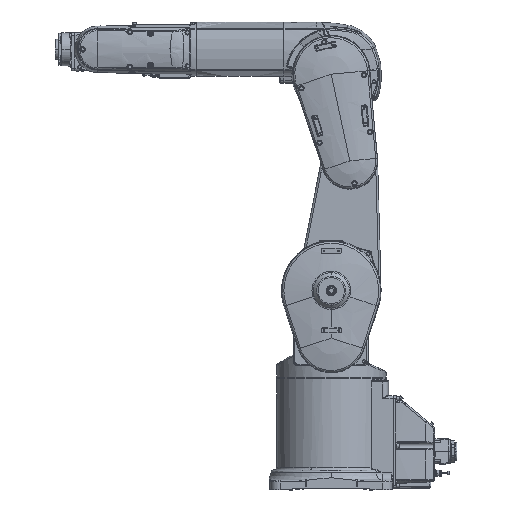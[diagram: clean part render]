
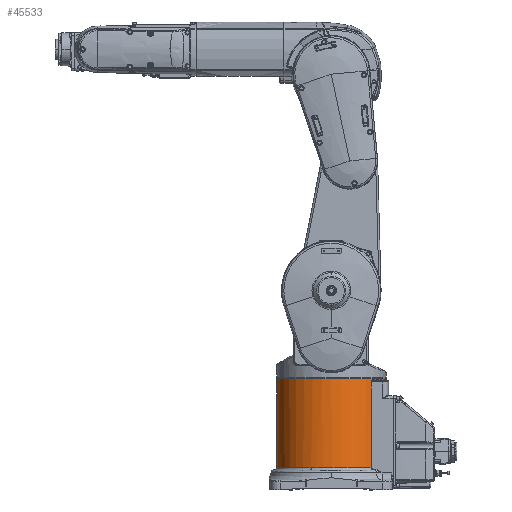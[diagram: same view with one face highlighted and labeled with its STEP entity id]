
A CAD part, top view. The second image highlights one B-rep face of the part: STEP entity #45533.
In plain terms, the highlighted cylindrical face has radius 110 mm (diameter 220 mm), a partial arc.
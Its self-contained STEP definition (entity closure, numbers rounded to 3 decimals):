
#4689=CARTESIAN_POINT('',(110.,222.,0.));
#4691=DIRECTION('',(0.,1.,0.));
#4692=VECTOR('',#4691,3.);
#4693=CARTESIAN_POINT('',(110.,222.,0.));
#4694=LINE('',#4693,#4692);
#4695=DIRECTION('',(0.,-1.,0.));
#4696=VECTOR('',#4695,180.);
#4697=CARTESIAN_POINT('',(-110.,225.,0.));
#4698=LINE('',#4697,#4696);
#5484=DIRECTION('',(0.,-1.,0.));
#5485=VECTOR('',#5484,172.415);
#5486=CARTESIAN_POINT('',(79.88,216.725,75.625));
#5487=LINE('',#5486,#5485);
#5488=CARTESIAN_POINT('',(79.88,44.31,75.625));
#5489=CARTESIAN_POINT('',(78.009,44.292,77.601));
#5490=CARTESIAN_POINT('',(74.12,44.257,81.415));
#5491=CARTESIAN_POINT('',(67.878,44.209,86.688));
#5492=CARTESIAN_POINT('',(61.262,44.166,91.483));
#5493=CARTESIAN_POINT('',(54.309,44.126,95.775));
#5494=CARTESIAN_POINT('',(47.057,44.092,99.539));
#5495=CARTESIAN_POINT('',(39.545,44.063,102.754));
#5496=CARTESIAN_POINT('',(31.816,44.039,105.404));
#5497=CARTESIAN_POINT('',(23.911,44.02,107.473));
#5498=CARTESIAN_POINT('',(15.875,44.006,108.951));
#5499=CARTESIAN_POINT('',(7.751,43.998,109.828));
#5500=CARTESIAN_POINT('',(-0.415,43.996,
110.1));
#5501=CARTESIAN_POINT('',(-8.58,43.999,109.766));
#5502=CARTESIAN_POINT('',(-16.697,44.007,108.828));
#5503=CARTESIAN_POINT('',(-24.721,44.021,107.29));
#5504=CARTESIAN_POINT('',(-32.61,44.041,105.161));
#5505=CARTESIAN_POINT('',(-37.75,44.057,103.356));
#5506=CARTESIAN_POINT('',(-40.282,44.066,102.359));
#5508=CARTESIAN_POINT('',(-40.282,44.066,102.359));
#5509=CARTESIAN_POINT('',(-42.833,44.075,101.355));
#5510=CARTESIAN_POINT('',(-47.858,44.096,99.157));
#5511=CARTESIAN_POINT('',(-55.129,44.131,95.307));
#5512=CARTESIAN_POINT('',(-62.092,44.171,90.924));
#5513=CARTESIAN_POINT('',(-68.708,44.215,86.034));
#5514=CARTESIAN_POINT('',(-74.94,44.264,80.663));
#5515=CARTESIAN_POINT('',(-80.755,44.317,74.842));
#5516=CARTESIAN_POINT('',(-86.118,44.374,68.602));
#5517=CARTESIAN_POINT('',(-91.,44.435,61.98));
#5518=CARTESIAN_POINT('',(-95.374,44.498,55.012));
#5519=CARTESIAN_POINT('',(-99.216,44.565,47.737));
#5520=CARTESIAN_POINT('',(-102.503,44.633,40.195));
#5521=CARTESIAN_POINT('',(-105.219,44.704,32.429));
#5522=CARTESIAN_POINT('',(-107.346,44.777,24.481));
#5523=CARTESIAN_POINT('',(-108.875,44.851,16.397));
#5524=CARTESIAN_POINT('',(-109.795,44.925,8.221));
#5525=CARTESIAN_POINT('',(-110.,44.975,2.74));
#5526=CARTESIAN_POINT('',(-110.,45.,
0.));
#5528=CARTESIAN_POINT('',(110.,222.,0.));
#5529=CARTESIAN_POINT('',(110.,221.942,3.258));
#5530=CARTESIAN_POINT('',(109.71,221.827,9.773));
#5531=CARTESIAN_POINT('',(108.411,221.654,19.468));
#5532=CARTESIAN_POINT('',(106.256,221.485,29.01));
#5533=CARTESIAN_POINT('',(103.263,221.319,38.324));
#5534=CARTESIAN_POINT('',(99.455,221.159,47.335));
#5535=CARTESIAN_POINT('',(94.863,221.006,55.973));
#5536=CARTESIAN_POINT('',(89.522,220.86,64.169));
#5537=CARTESIAN_POINT('',(85.491,220.769,69.296));
#5538=CARTESIAN_POINT('',(83.365,220.725,71.765));
#5610=CARTESIAN_POINT('',(79.88,216.725,75.625));
#5611=CARTESIAN_POINT('',(79.88,216.777,75.625));
#5612=CARTESIAN_POINT('',(79.882,216.881,75.623));
#5613=CARTESIAN_POINT('',(79.891,217.038,75.614));
#5614=CARTESIAN_POINT('',(79.905,217.192,75.599));
#5615=CARTESIAN_POINT('',(79.924,217.346,75.578));
#5616=CARTESIAN_POINT('',(79.948,217.489,75.554));
#5617=CARTESIAN_POINT('',(79.977,217.638,75.523));
#5618=CARTESIAN_POINT('',(80.016,217.799,75.482));
#5619=CARTESIAN_POINT('',(80.053,217.934,75.442));
#5620=CARTESIAN_POINT('',(80.098,218.08,75.394));
#5621=CARTESIAN_POINT('',(80.151,218.23,75.338));
#5622=CARTESIAN_POINT('',(80.213,218.385,75.272));
#5623=CARTESIAN_POINT('',(80.273,218.522,75.208));
#5624=CARTESIAN_POINT('',(80.344,218.668,75.132));
#5625=CARTESIAN_POINT('',(80.424,218.817,75.047));
#5626=CARTESIAN_POINT('',(80.51,218.964,74.954));
#5627=CARTESIAN_POINT('',(80.597,219.099,74.86));
#5628=CARTESIAN_POINT('',(80.696,219.239,74.755));
#5629=CARTESIAN_POINT('',(80.806,219.382,74.635));
#5630=CARTESIAN_POINT('',(80.918,219.516,74.513));
#5631=CARTESIAN_POINT('',(81.034,219.642,74.387));
#5632=CARTESIAN_POINT('',(81.161,219.768,74.249));
#5633=CARTESIAN_POINT('',(81.302,219.896,74.094));
#5634=CARTESIAN_POINT('',(81.44,220.009,73.943));
#5635=CARTESIAN_POINT('',(81.585,220.117,73.783));
#5636=CARTESIAN_POINT('',(81.74,220.22,73.611));
#5637=CARTESIAN_POINT('',(81.909,220.321,73.423));
#5638=CARTESIAN_POINT('',(82.073,220.406,73.24));
#5639=CARTESIAN_POINT('',(82.25,220.486,73.041));
#5640=CARTESIAN_POINT('',(82.429,220.555,72.839));
#5641=CARTESIAN_POINT('',(82.614,220.613,72.629));
#5642=CARTESIAN_POINT('',(82.8,220.66,72.417));
#5643=CARTESIAN_POINT('',(82.988,220.694,72.201));
#5644=CARTESIAN_POINT('',(83.177,220.717,71.984));
#5645=CARTESIAN_POINT('',(83.302,220.724,71.838));
#5646=CARTESIAN_POINT('',(83.365,220.725,71.765));
#22375=CARTESIAN_POINT('',(0.,225.,0.));
#22376=DIRECTION('',(0.,-1.,0.));
#22377=DIRECTION('',(1.,0.,0.));
#22378=AXIS2_PLACEMENT_3D('',#22375,#22376,#22377);
#34074=VERTEX_POINT('',#4689);
#34075=CARTESIAN_POINT('',(110.,225.,0.));
#34076=VERTEX_POINT('',#34075);
#34077=CARTESIAN_POINT('',(-110.,225.,0.));
#34078=VERTEX_POINT('',#34077);
#34079=CARTESIAN_POINT('',(-110.,45.,
0.));
#34080=VERTEX_POINT('',#34079);
#34615=VERTEX_POINT('',#5508);
#34616=CARTESIAN_POINT('',(79.88,216.725,75.625));
#34617=CARTESIAN_POINT('',(79.88,44.31,75.625));
#34618=VERTEX_POINT('',#34616);
#34619=VERTEX_POINT('',#34617);
#34620=VERTEX_POINT('',#5538);
#45513=CARTESIAN_POINT('',(0.,34.342,0.));
#45514=DIRECTION('',(0.,1.,0.));
#45515=DIRECTION('',(1.,0.,0.));
#45516=AXIS2_PLACEMENT_3D('',#45513,#45514,#45515);
#45517=CYLINDRICAL_SURFACE('',#45516,110.);
#45519=ORIENTED_EDGE('',*,*,#45518,.T.);
#45521=ORIENTED_EDGE('',*,*,#45520,.T.);
#45522=ORIENTED_EDGE('',*,*,#45504,.T.);
#45523=ORIENTED_EDGE('',*,*,#43544,.F.);
#45525=ORIENTED_EDGE('',*,*,#45524,.F.);
#45526=ORIENTED_EDGE('',*,*,#43540,.F.);
#45528=ORIENTED_EDGE('',*,*,#45527,.T.);
#45530=ORIENTED_EDGE('',*,*,#45529,.F.);
#45531=EDGE_LOOP('',(#45519,#45521,#45522,#45523,#45525,#45526,#45528,#45530));
#45532=FACE_OUTER_BOUND('',#45531,.F.);
#45533=ADVANCED_FACE('',(#45532),#45517,.T.);
#5507=B_SPLINE_CURVE_WITH_KNOTS('',3,(#5488,#5489,#5490,#5491,#5492,#5493,#5494,
#5495,#5496,#5497,#5498,#5499,#5500,#5501,#5502,#5503,#5504,#5505,#5506),
.UNSPECIFIED.,.F.,.F.,(4,1,1,1,1,1,1,1,1,1,1,1,1,1,1,1,4),(0.,0.063,0.125,
0.188,0.25,0.313,0.375,0.438,0.5,0.563,0.625,0.688,
0.75,0.813,0.875,0.938,1.),.UNSPECIFIED.);
#5527=B_SPLINE_CURVE_WITH_KNOTS('',3,(#5508,#5509,#5510,#5511,#5512,#5513,#5514,
#5515,#5516,#5517,#5518,#5519,#5520,#5521,#5522,#5523,#5524,#5525,#5526),
.UNSPECIFIED.,.F.,.F.,(4,1,1,1,1,1,1,1,1,1,1,1,1,1,1,1,4),(0.,0.063,0.125,
0.188,0.25,0.313,0.375,0.438,0.5,0.563,0.625,0.688,
0.75,0.813,0.875,0.938,1.),.UNSPECIFIED.);
#5539=B_SPLINE_CURVE_WITH_KNOTS('',3,(#5528,#5529,#5530,#5531,#5532,#5533,#5534,
#5535,#5536,#5537,#5538),.UNSPECIFIED.,.F.,.F.,(4,1,1,1,1,1,1,1,4),(0.,
0.125,0.25,0.375,0.5,0.625,0.75,0.875,1.),.UNSPECIFIED.);
#5647=B_SPLINE_CURVE_WITH_KNOTS('',3,(#5610,#5611,#5612,#5613,#5614,#5615,#5616,
#5617,#5618,#5619,#5620,#5621,#5622,#5623,#5624,#5625,#5626,#5627,#5628,#5629,
#5630,#5631,#5632,#5633,#5634,#5635,#5636,#5637,#5638,#5639,#5640,#5641,#5642,
#5643,#5644,#5645,#5646),.UNSPECIFIED.,.F.,.F.,(4,1,1,1,1,1,1,1,1,1,1,1,1,1,1,1,
1,1,1,1,1,1,1,1,1,1,1,1,1,1,1,1,1,1,4),(0.,0.029,
0.059,0.088,0.118,0.147,
0.176,0.206,0.235,0.265,
0.294,0.324,0.353,0.382,
0.412,0.441,0.471,0.5,0.529,
0.559,0.588,0.618,0.647,
0.676,0.706,0.735,0.765,
0.794,0.824,0.853,0.882,
0.912,0.941,0.971,1.),.UNSPECIFIED.);
#22379=CIRCLE('',#22378,110.);
#43540=EDGE_CURVE('',#34074,#34076,#4694,.T.);
#43544=EDGE_CURVE('',#34078,#34080,#4698,.T.);
#45504=EDGE_CURVE('',#34615,#34080,#5527,.T.);
#45518=EDGE_CURVE('',#34618,#34619,#5487,.T.);
#45520=EDGE_CURVE('',#34619,#34615,#5507,.T.);
#45524=EDGE_CURVE('',#34076,#34078,#22379,.T.);
#45527=EDGE_CURVE('',#34074,#34620,#5539,.T.);
#45529=EDGE_CURVE('',#34618,#34620,#5647,.T.);
